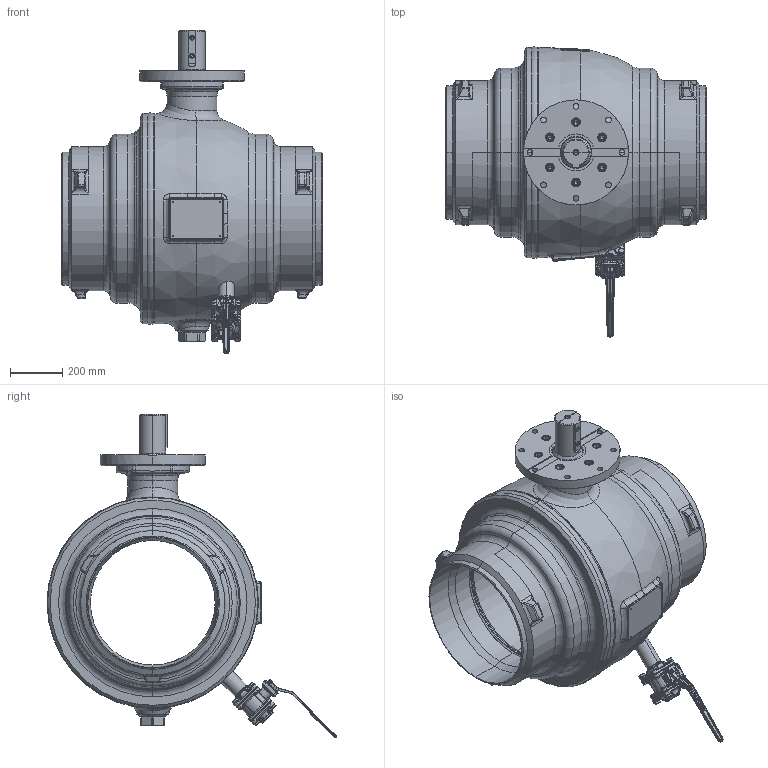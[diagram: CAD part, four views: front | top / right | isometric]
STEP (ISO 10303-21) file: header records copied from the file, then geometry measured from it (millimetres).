
FILE_DESCRIPTION((''),'2;1');
FILE_NAME('KHSVI_500_FR_WE_ENTL','2026-01-27T14:25:14',('schwaba'),('KLINGER'),'CREO PARAMETRIC BY PTC INC, 2023014','CREO PARAMETRIC BY PTC INC, 2023014','');
FILE_SCHEMA(('CONFIG_CONTROL_DESIGN'));
Products named in the file (1): KHSVI_500_FR_WE_ENTL
Bounding box: 991 x 1104.86 x 1231.44 mm (x, y, z)
Volume: 119034514.2 mm3; surface area: 9282663.9 mm2
Topology: 1 solids, 5 shells, 3676 faces, 9011 edges, 5432 vertices
Faces by surface type: plane 1204, cylinder 947, bspline 526, torus 463, cone 395, sphere 102, revolution 31, extrusion 8
Entity records: 241907 total; most frequent: CARTESIAN_POINT 160058, ORIENTED_EDGE 17932, DIRECTION 16284, EDGE_CURVE 8966, AXIS2_PLACEMENT_3D 6776, VERTEX_POINT 5432, EDGE_LOOP 3912, FACE_OUTER_BOUND 3676
